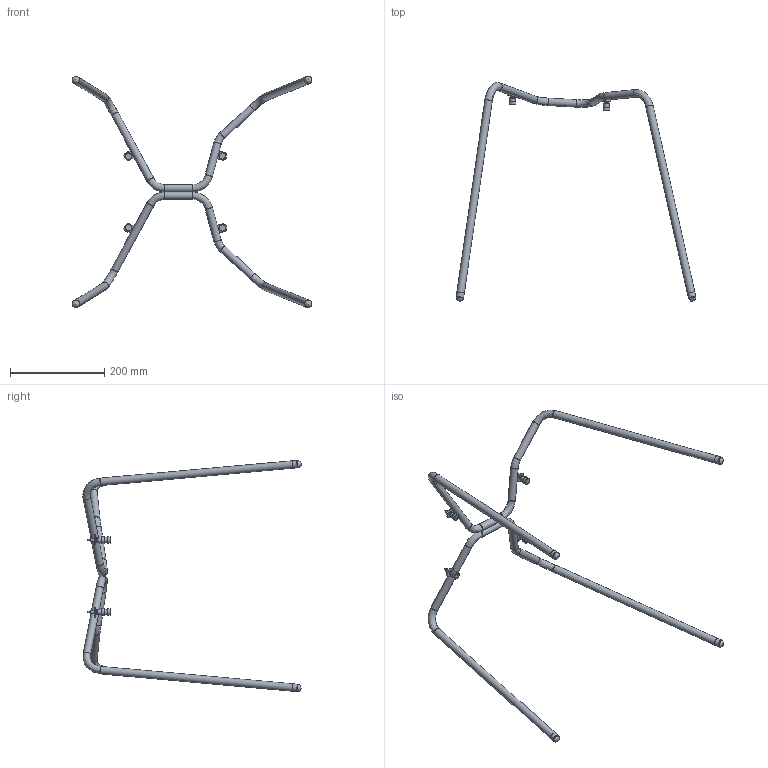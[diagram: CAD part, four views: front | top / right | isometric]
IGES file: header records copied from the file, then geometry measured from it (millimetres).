
Global section: file name: Silla Heir; native system: Autodesk Inventor 2021; preprocessor: unknown; author: auxdiseno; date: 20230127.095834; units: millimetre
Bounding box: 509.64 x 464.17 x 491.81 mm (x, y, z)
Volume: 254400.7 mm3; surface area: 267911.6 mm2
Topology: 18 solids, 18 shells, 256 faces, 700 edges, 496 vertices
Faces by surface type: bspline 256
